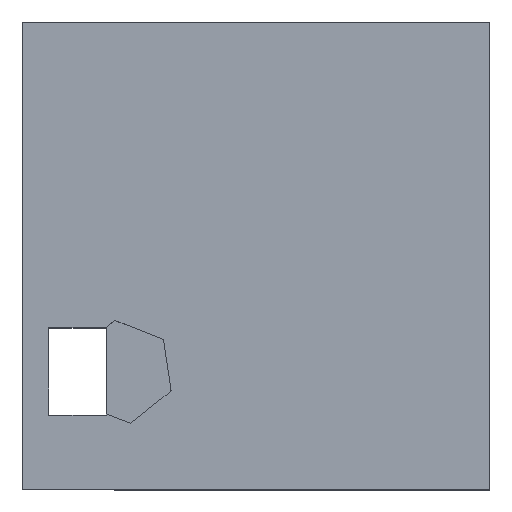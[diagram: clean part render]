
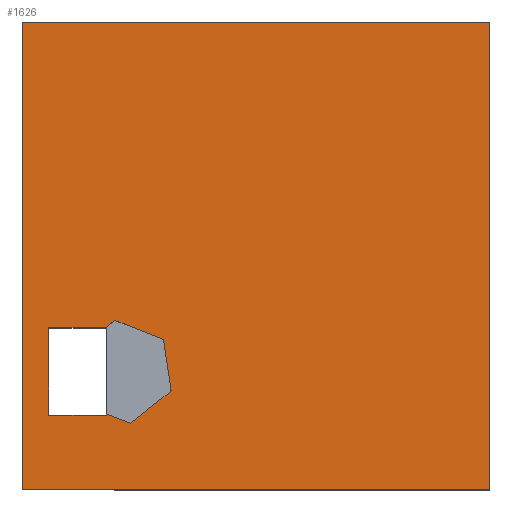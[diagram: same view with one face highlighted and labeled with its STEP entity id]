
A CAD part, top view. The second image highlights one B-rep face of the part: STEP entity #1626.
In plain terms, the highlighted planar face has unit normal (0, 0, 1).
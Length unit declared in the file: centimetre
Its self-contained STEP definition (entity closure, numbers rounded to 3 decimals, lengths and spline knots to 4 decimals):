
#6 = CARTESIAN_POINT ( 'NONE',  ( 56.9724, 158.5342, 1000. ) ) ;
#17 = VECTOR ( 'NONE', #395, 100. ) ;
#51 = CARTESIAN_POINT ( 'NONE',  ( 56.9724, 346.582, 1000. ) ) ;
#83 = VERTEX_POINT ( 'NONE', #1231 ) ;
#99 = VECTOR ( 'NONE', #1637, 100. ) ;
#106 = CARTESIAN_POINT ( 'NONE',  ( 231.1513, 141.1653, 1000. ) ) ;
#125 = VECTOR ( 'NONE', #542, 100. ) ;
#147 = VECTOR ( 'NONE', #1048, 100. ) ;
#164 = EDGE_LOOP ( 'NONE', ( #1076, #404, #228, #1229 ) ) ;
#174 = ORIENTED_EDGE ( 'NONE', *, *, #1698, .F. ) ;
#177 = VERTEX_POINT ( 'NONE', #191 ) ;
#184 = VECTOR ( 'NONE', #1666, 100. ) ;
#191 = CARTESIAN_POINT ( 'NONE',  ( 301.8998, 320.8204, 1000. ) ) ;
#196 = FACE_BOUND ( 'NONE', #1478, .T. ) ;
#198 = CARTESIAN_POINT ( 'NONE',  ( 198.1759, 361.6671, 1000. ) ) ;
#228 = ORIENTED_EDGE ( 'NONE', *, *, #1318, .T. ) ;
#236 = DIRECTION ( 'NONE',  ( 0.93, -0.366, 0. ) ) ;
#238 = VECTOR ( 'NONE', #236, 100. ) ;
#283 = CARTESIAN_POINT ( 'NONE',  ( 1000., 1000., 1000. ) ) ;
#311 = LINE ( 'NONE', #863, #1299 ) ;
#345 = LINE ( 'NONE', #1559, #147 ) ;
#355 = ORIENTED_EDGE ( 'NONE', *, *, #1192, .F. ) ;
#362 = LINE ( 'NONE', #1428, #1271 ) ;
#368 = CARTESIAN_POINT ( 'NONE',  ( 318.3875, 210.5695, 1000. ) ) ;
#378 = VECTOR ( 'NONE', #1598, 100. ) ;
#395 = DIRECTION ( 'NONE',  ( -1., 0., 0. ) ) ;
#404 = ORIENTED_EDGE ( 'NONE', *, *, #946, .T. ) ;
#438 = EDGE_CURVE ( 'NONE', #1295, #517, #1540, .T. ) ;
#465 = ORIENTED_EDGE ( 'NONE', *, *, #1426, .F. ) ;
#486 = CARTESIAN_POINT ( 'NONE',  ( 56.9724, 346.582, 1000. ) ) ;
#488 = EDGE_CURVE ( 'NONE', #1277, #1268, #345, .T. ) ;
#512 = CARTESIAN_POINT ( 'NONE',  ( 179.2149, 161.6179, 1000. ) ) ;
#517 = VERTEX_POINT ( 'NONE', #486 ) ;
#530 = LINE ( 'NONE', #1352, #1500 ) ;
#542 = DIRECTION ( 'NONE',  ( 0., 1., 0. ) ) ;
#552 = LINE ( 'NONE', #1100, #238 ) ;
#567 = EDGE_CURVE ( 'NONE', #1139, #1295, #1429, .T. ) ;
#600 = DIRECTION ( 'NONE',  ( -1., 0., 0. ) ) ;
#612 = VERTEX_POINT ( 'NONE', #512 ) ;
#613 = LINE ( 'NONE', #1148, #1443 ) ;
#618 = CARTESIAN_POINT ( 'NONE',  ( 179.2149, 158.5342, 1000. ) ) ;
#661 = CARTESIAN_POINT ( 'NONE',  ( 56.9724, 158.5342, 1000. ) ) ;
#689 = VERTEX_POINT ( 'NONE', #6 ) ;
#756 = DIRECTION ( 'NONE',  ( 1., 0., 0. ) ) ;
#759 = VECTOR ( 'NONE', #767, 100. ) ;
#765 = DIRECTION ( 'NONE',  ( -0.148, 0.989, 0. ) ) ;
#767 = DIRECTION ( 'NONE',  ( -0.783, -0.623, 0. ) ) ;
#785 = VERTEX_POINT ( 'NONE', #790 ) ;
#786 = CARTESIAN_POINT ( 'NONE',  ( 179.2149, 346.582, 1000. ) ) ;
#790 = CARTESIAN_POINT ( 'NONE',  ( 1000., 0., 1000. ) ) ;
#822 = LINE ( 'NONE', #1087, #125 ) ;
#846 = EDGE_CURVE ( 'NONE', #1530, #612, #822, .T. ) ;
#863 = CARTESIAN_POINT ( 'NONE',  ( 0., 1000., 1000. ) ) ;
#888 = EDGE_CURVE ( 'NONE', #517, #689, #1364, .T. ) ;
#891 = VERTEX_POINT ( 'NONE', #283 ) ;
#911 = EDGE_CURVE ( 'NONE', #891, #83, #965, .T. ) ;
#926 = VECTOR ( 'NONE', #600, 100. ) ;
#946 = EDGE_CURVE ( 'NONE', #1492, #785, #1247, .T. ) ;
#965 = LINE ( 'NONE', #1619, #17 ) ;
#971 = CARTESIAN_POINT ( 'NONE',  ( 0., 0., 1000. ) ) ;
#1048 = DIRECTION ( 'NONE',  ( 0.783, 0.623, 0. ) ) ;
#1060 = ORIENTED_EDGE ( 'NONE', *, *, #888, .F. ) ;
#1076 = ORIENTED_EDGE ( 'NONE', *, *, #1474, .T. ) ;
#1087 = CARTESIAN_POINT ( 'NONE',  ( 179.2149, 158.5342, 1000. ) ) ;
#1094 = ORIENTED_EDGE ( 'NONE', *, *, #846, .F. ) ;
#1100 = CARTESIAN_POINT ( 'NONE',  ( 127.4273, 182.012, 1000. ) ) ;
#1135 = PLANE ( 'NONE',  #1418 ) ;
#1139 = VERTEX_POINT ( 'NONE', #198 ) ;
#1148 = CARTESIAN_POINT ( 'NONE',  ( 318.3875, 210.5695, 1000. ) ) ;
#1158 = ORIENTED_EDGE ( 'NONE', *, *, #488, .F. ) ;
#1192 = EDGE_CURVE ( 'NONE', #689, #1530, #362, .T. ) ;
#1207 = LINE ( 'NONE', #1345, #99 ) ;
#1227 = EDGE_CURVE ( 'NONE', #1268, #177, #613, .T. ) ;
#1229 = ORIENTED_EDGE ( 'NONE', *, *, #911, .T. ) ;
#1231 = CARTESIAN_POINT ( 'NONE',  ( 0., 1000., 1000. ) ) ;
#1247 = LINE ( 'NONE', #971, #184 ) ;
#1257 = FACE_OUTER_BOUND ( 'NONE', #164, .T. ) ;
#1268 = VERTEX_POINT ( 'NONE', #368 ) ;
#1271 = VECTOR ( 'NONE', #756, 100. ) ;
#1277 = VERTEX_POINT ( 'NONE', #106 ) ;
#1279 = DIRECTION ( 'NONE',  ( 0., 0., 1. ) ) ;
#1292 = DIRECTION ( 'NONE',  ( 1., 0., 0. ) ) ;
#1295 = VERTEX_POINT ( 'NONE', #786 ) ;
#1299 = VECTOR ( 'NONE', #1406, 100. ) ;
#1318 = EDGE_CURVE ( 'NONE', #785, #891, #1207, .T. ) ;
#1345 = CARTESIAN_POINT ( 'NONE',  ( 1000., 1000., 1000. ) ) ;
#1352 = CARTESIAN_POINT ( 'NONE',  ( 301.8998, 320.8204, 1000. ) ) ;
#1364 = LINE ( 'NONE', #661, #378 ) ;
#1406 = DIRECTION ( 'NONE',  ( 0., -1., 0. ) ) ;
#1418 = AXIS2_PLACEMENT_3D ( 'NONE', #1670, #1279, #1292 ) ;
#1426 = EDGE_CURVE ( 'NONE', #612, #1277, #552, .T. ) ;
#1428 = CARTESIAN_POINT ( 'NONE',  ( 56.9724, 158.5342, 1000. ) ) ;
#1429 = LINE ( 'NONE', #1696, #759 ) ;
#1443 = VECTOR ( 'NONE', #765, 100. ) ;
#1474 = EDGE_CURVE ( 'NONE', #83, #1492, #311, .T. ) ;
#1478 = EDGE_LOOP ( 'NONE', ( #1602, #1594, #174, #1721, #1158, #465, #1094, #355, #1060 ) ) ;
#1492 = VERTEX_POINT ( 'NONE', #1704 ) ;
#1500 = VECTOR ( 'NONE', #1710, 100. ) ;
#1530 = VERTEX_POINT ( 'NONE', #618 ) ;
#1540 = LINE ( 'NONE', #51, #926 ) ;
#1559 = CARTESIAN_POINT ( 'NONE',  ( 231.1513, 141.1653, 1000. ) ) ;
#1594 = ORIENTED_EDGE ( 'NONE', *, *, #567, .F. ) ;
#1598 = DIRECTION ( 'NONE',  ( 0., -1., 0. ) ) ;
#1602 = ORIENTED_EDGE ( 'NONE', *, *, #438, .F. ) ;
#1619 = CARTESIAN_POINT ( 'NONE',  ( 0., 1000., 1000. ) ) ;
#1626 = ADVANCED_FACE ( 'NONE', ( #196, #1257 ), #1135, .T. ) ;
#1637 = DIRECTION ( 'NONE',  ( 0., 1., 0. ) ) ;
#1666 = DIRECTION ( 'NONE',  ( 1., 0., 0. ) ) ;
#1670 = CARTESIAN_POINT ( 'NONE',  ( 0., 0., 1000. ) ) ;
#1696 = CARTESIAN_POINT ( 'NONE',  ( 198.1759, 361.6671, 1000. ) ) ;
#1698 = EDGE_CURVE ( 'NONE', #177, #1139, #530, .T. ) ;
#1704 = CARTESIAN_POINT ( 'NONE',  ( 0., 0., 1000. ) ) ;
#1710 = DIRECTION ( 'NONE',  ( -0.93, 0.366, 0. ) ) ;
#1721 = ORIENTED_EDGE ( 'NONE', *, *, #1227, .F. ) ;
